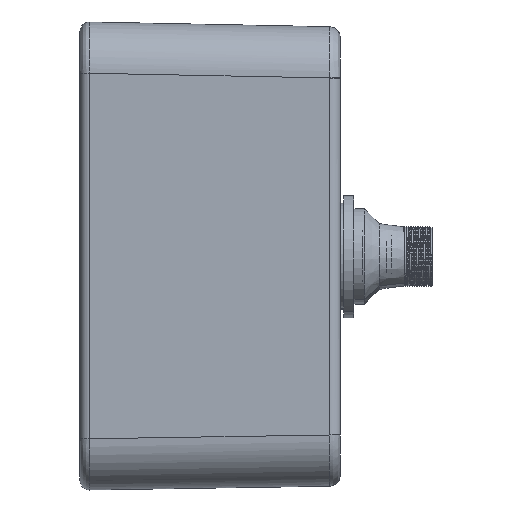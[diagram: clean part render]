
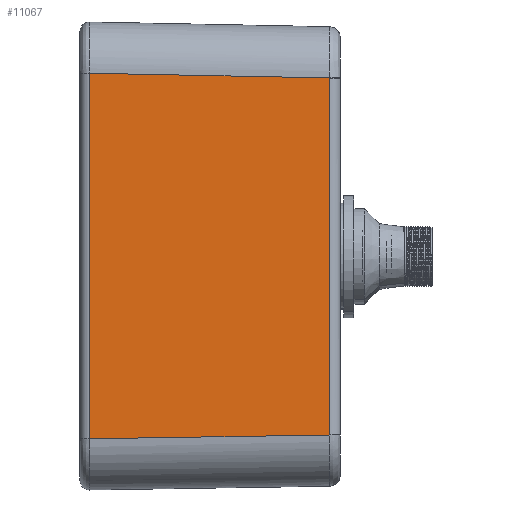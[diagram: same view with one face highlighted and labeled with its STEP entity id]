
A CAD part, left-side view. The second image highlights one B-rep face of the part: STEP entity #11067.
In plain terms, the highlighted planar face has unit normal (-1, -0.016, 0).
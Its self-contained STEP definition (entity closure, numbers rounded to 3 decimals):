
#1802 = VECTOR ( 'NONE', #19095, 1000. ) ;
#3772 = CARTESIAN_POINT ( 'NONE',  ( -219.902, -6.202, -173.909 ) ) ;
#4088 = CARTESIAN_POINT ( 'NONE',  ( -220.171, 10.876, 174.22 ) ) ;
#4326 = CARTESIAN_POINT ( 'NONE',  ( -223.848, 244.35, 0. ) ) ;
#4463 = VERTEX_POINT ( 'NONE', #57254 ) ;
#4950 = DIRECTION ( 'NONE',  ( -0.016, 1., 0.02 ) ) ;
#5007 = EDGE_CURVE ( 'NONE', #33329, #45521, #35628, .T. ) ;
#6144 = ORIENTED_EDGE ( 'NONE', *, *, #56008, .T. ) ;
#10458 = CARTESIAN_POINT ( 'NONE',  ( -220.171, 10.876, -174.001 ) ) ;
#10754 = VECTOR ( 'NONE', #39265, 1000. ) ;
#11067 = ADVANCED_FACE ( 'NONE', ( #15764 ), #20550, .T. ) ;
#12075 = CARTESIAN_POINT ( 'NONE',  ( -220.171, 10.876, -174.177 ) ) ;
#12461 = ORIENTED_EDGE ( 'NONE', *, *, #51276, .T. ) ;
#12769 = ORIENTED_EDGE ( 'NONE', *, *, #26614, .T. ) ;
#13725 = CARTESIAN_POINT ( 'NONE',  ( -220.171, 10.876, 173.999 ) ) ;
#14848 = ORIENTED_EDGE ( 'NONE', *, *, #35457, .T. ) ;
#15687 = VERTEX_POINT ( 'NONE', #30319 ) ;
#15764 = FACE_OUTER_BOUND ( 'NONE', #22520, .T. ) ;
#19095 = DIRECTION ( 'NONE',  ( 0., 0., 1. ) ) ;
#20550 = PLANE ( 'NONE',  #58100 ) ;
#22241 = CARTESIAN_POINT ( 'NONE',  ( -223.848, 244.35, 178.816 ) ) ;
#22520 = EDGE_LOOP ( 'NONE', ( #12461, #39115, #31025, #12769, #6144, #14848 ) ) ;
#26614 = EDGE_CURVE ( 'NONE', #38738, #4463, #35610, .T. ) ;
#27460 = LINE ( 'NONE', #13725, #1802 ) ;
#29204 = CARTESIAN_POINT ( 'NONE',  ( -219.945, -3.464, 0. ) ) ;
#30046 = CARTESIAN_POINT ( 'NONE',  ( -220.171, 10.876, 174.22 ) ) ;
#30319 = CARTESIAN_POINT ( 'NONE',  ( -220.171, 10.876, 173.999 ) ) ;
#30864 = VECTOR ( 'NONE', #36220, 1000. ) ;
#31025 = ORIENTED_EDGE ( 'NONE', *, *, #38705, .T. ) ;
#33329 = VERTEX_POINT ( 'NONE', #22241 ) ;
#34774 = CARTESIAN_POINT ( 'NONE',  ( -220.171, 10.876, 174.146 ) ) ;
#35070 = CARTESIAN_POINT ( 'NONE',  ( -220.171, 10.876, 174.073 ) ) ;
#35457 = EDGE_CURVE ( 'NONE', #15687, #45853, #41600, .T. ) ;
#35610 = B_SPLINE_CURVE_WITH_KNOTS ( 'NONE', 3,
 ( #43028, #46896, #42453, #10458 ),
 .UNSPECIFIED., .F., .F.,
 ( 4, 4 ),
 ( 0., 1. ),
 .UNSPECIFIED. ) ;
#35628 = LINE ( 'NONE', #4326, #30864 ) ;
#36220 = DIRECTION ( 'NONE',  ( 0., 0., -1. ) ) ;
#38178 = DIRECTION ( 'NONE',  ( -1., -0.016, 0. ) ) ;
#38470 = DIRECTION ( 'NONE',  ( 0.016, -1., 0. ) ) ;
#38705 = EDGE_CURVE ( 'NONE', #45521, #38738, #44037, .T. ) ;
#38738 = VERTEX_POINT ( 'NONE', #12075 ) ;
#39115 = ORIENTED_EDGE ( 'NONE', *, *, #5007, .T. ) ;
#39265 = DIRECTION ( 'NONE',  ( 0.016, -1., 0.016 ) ) ;
#41061 = LINE ( 'NONE', #54405, #44600 ) ;
#41600 = B_SPLINE_CURVE_WITH_KNOTS ( 'NONE', 3,
 ( #58589, #35070, #34774, #4088 ),
 .UNSPECIFIED., .F., .F.,
 ( 4, 4 ),
 ( 0., 1. ),
 .UNSPECIFIED. ) ;
#42453 = CARTESIAN_POINT ( 'NONE',  ( -220.171, 10.876, -174.06 ) ) ;
#43028 = CARTESIAN_POINT ( 'NONE',  ( -220.171, 10.876, -174.177 ) ) ;
#43355 = CARTESIAN_POINT ( 'NONE',  ( -223.848, 244.35, -177.854 ) ) ;
#44037 = LINE ( 'NONE', #3772, #10754 ) ;
#44600 = VECTOR ( 'NONE', #4950, 1000. ) ;
#45521 = VERTEX_POINT ( 'NONE', #43355 ) ;
#45853 = VERTEX_POINT ( 'NONE', #30046 ) ;
#46896 = CARTESIAN_POINT ( 'NONE',  ( -220.171, 10.876, -174.119 ) ) ;
#51276 = EDGE_CURVE ( 'NONE', #45853, #33329, #41061, .T. ) ;
#54405 = CARTESIAN_POINT ( 'NONE',  ( -219.892, -6.886, 173.87 ) ) ;
#56008 = EDGE_CURVE ( 'NONE', #4463, #15687, #27460, .T. ) ;
#57254 = CARTESIAN_POINT ( 'NONE',  ( -220.171, 10.876, -174.001 ) ) ;
#58100 = AXIS2_PLACEMENT_3D ( 'NONE', #29204, #38178, #38470 ) ;
#58589 = CARTESIAN_POINT ( 'NONE',  ( -220.171, 10.876, 173.999 ) ) ;
